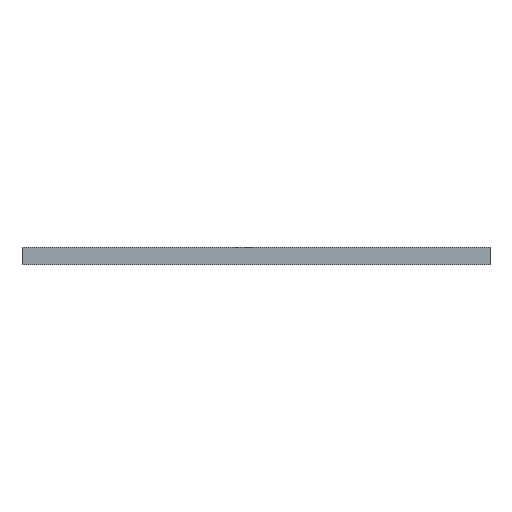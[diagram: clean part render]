
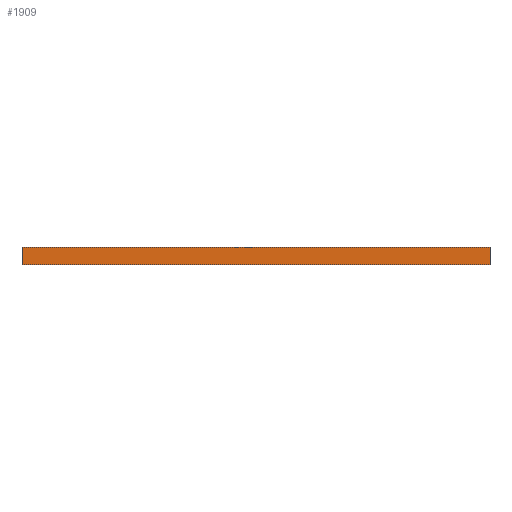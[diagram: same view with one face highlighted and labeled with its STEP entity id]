
A CAD part, front view. The second image highlights one B-rep face of the part: STEP entity #1909.
In plain terms, the highlighted planar face has unit normal (0, -1, 0).
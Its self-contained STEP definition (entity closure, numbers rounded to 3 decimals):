
#152 = VERTEX_POINT('',#153);
#153 = CARTESIAN_POINT('',(0.,-100.,0.));
#159 = EDGE_CURVE('',#160,#152,#162,.T.);
#160 = VERTEX_POINT('',#161);
#161 = CARTESIAN_POINT('',(40.,-100.,0.));
#162 = LINE('',#163,#164);
#163 = CARTESIAN_POINT('',(40.,-100.,0.));
#164 = VECTOR('',#165,1.);
#165 = DIRECTION('',(-1.,0.,0.));
#1004 = VERTEX_POINT('',#1005);
#1005 = CARTESIAN_POINT('',(0.,-100.,1.51));
#1011 = EDGE_CURVE('',#1012,#1004,#1014,.T.);
#1012 = VERTEX_POINT('',#1013);
#1013 = CARTESIAN_POINT('',(40.,-100.,1.51));
#1014 = LINE('',#1015,#1016);
#1015 = CARTESIAN_POINT('',(40.,-100.,1.51));
#1016 = VECTOR('',#1017,1.);
#1017 = DIRECTION('',(-1.,0.,0.));
#1879 = EDGE_CURVE('',#152,#1004,#1880,.T.);
#1880 = LINE('',#1881,#1882);
#1881 = CARTESIAN_POINT('',(0.,-100.,0.));
#1882 = VECTOR('',#1883,1.);
#1883 = DIRECTION('',(0.,0.,1.));
#1898 = EDGE_CURVE('',#160,#1012,#1899,.T.);
#1899 = LINE('',#1900,#1901);
#1900 = CARTESIAN_POINT('',(40.,-100.,0.));
#1901 = VECTOR('',#1902,1.);
#1902 = DIRECTION('',(0.,0.,1.));
#1909 = ADVANCED_FACE('',(#1910),#1916,.T.);
#1910 = FACE_BOUND('',#1911,.T.);
#1911 = EDGE_LOOP('',(#1912,#1913,#1914,#1915));
#1912 = ORIENTED_EDGE('',*,*,#1898,.T.);
#1913 = ORIENTED_EDGE('',*,*,#1011,.T.);
#1914 = ORIENTED_EDGE('',*,*,#1879,.F.);
#1915 = ORIENTED_EDGE('',*,*,#159,.F.);
#1916 = PLANE('',#1917);
#1917 = AXIS2_PLACEMENT_3D('',#1918,#1919,#1920);
#1918 = CARTESIAN_POINT('',(40.,-100.,0.));
#1919 = DIRECTION('',(0.,-1.,0.));
#1920 = DIRECTION('',(-1.,0.,0.));
